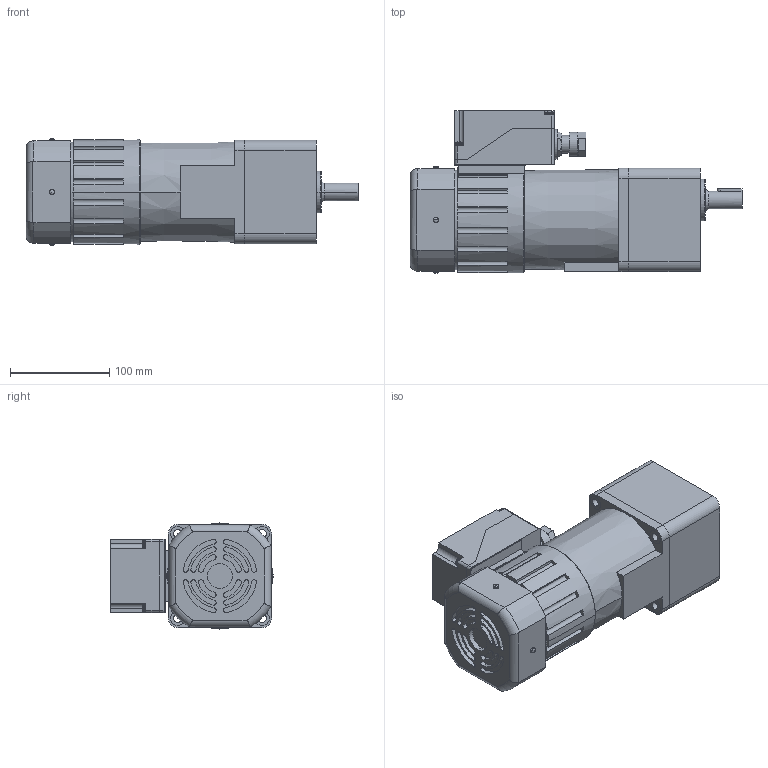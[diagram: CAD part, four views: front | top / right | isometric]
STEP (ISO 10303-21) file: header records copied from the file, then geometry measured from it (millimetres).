
FILE_DESCRIPTION (( 'STEP AP214' ), '1' );
FILE_NAME ('A386.STEP', '2021-03-08T22:56:14', ( '' ), ( '' ), 'SwSTEP 2.0', 'SolidWorks 2021', '' );
FILE_SCHEMA (( 'AUTOMOTIVE_DESIGN' ));
Length unit declared in the file: millimetre
Products named in the file (1): A386
Bounding box: 334 x 163.9 x 107.8 mm (x, y, z)
Volume: 3082108.5 mm3; surface area: 225961 mm2
Topology: 3 solids, 3 shells, 452 faces, 1147 edges, 736 vertices
Faces by surface type: cylinder 225, plane 159, cone 36, torus 22, sphere 10
Entity records: 14419 total; most frequent: CARTESIAN_POINT 3115, DIRECTION 2600, ORIENTED_EDGE 2254, EDGE_CURVE 1127, AXIS2_PLACEMENT_3D 1078, VERTEX_POINT 724, CIRCLE 625, EDGE_LOOP 511
